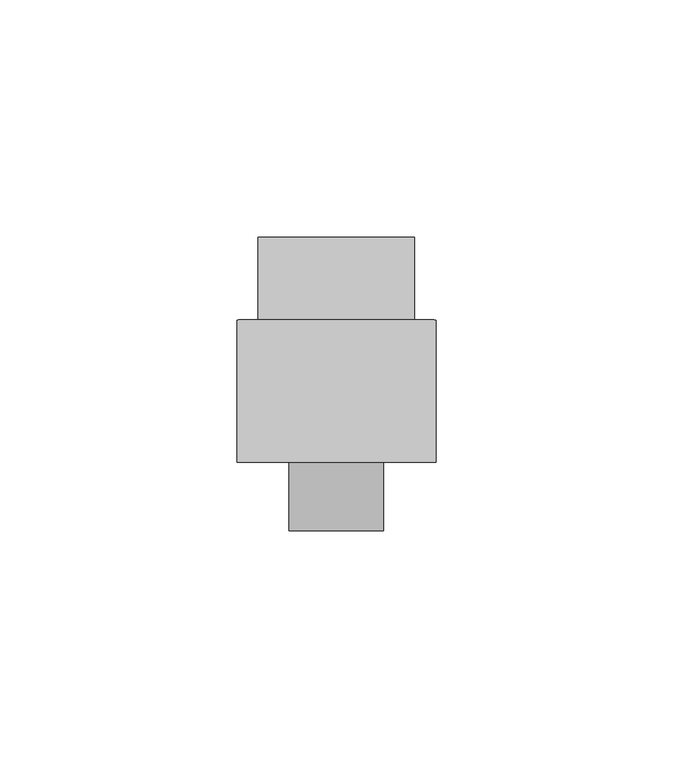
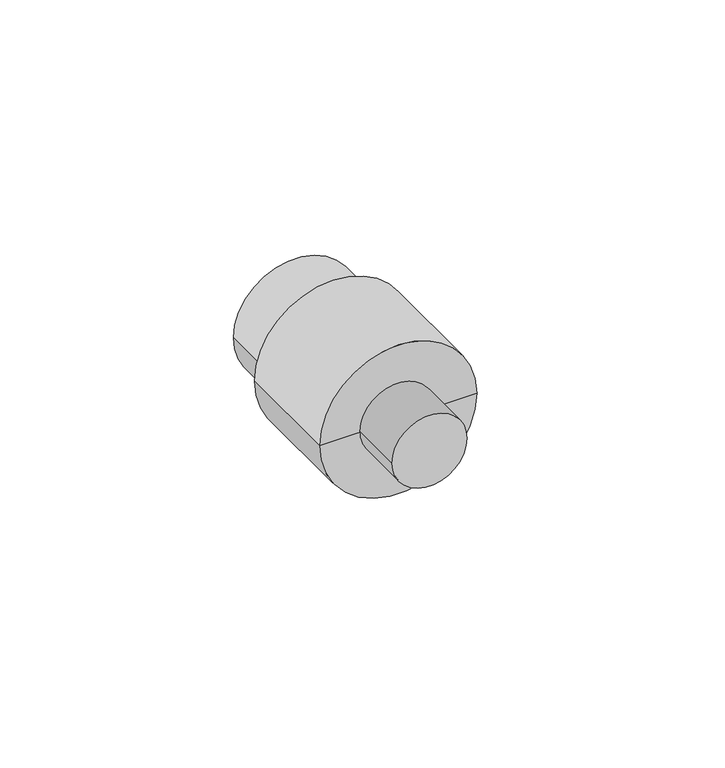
"""IFC4 building model written with IfcOpenShell, lengths in millimetres: pipe fitting geometry, NIRON RED termofusion roscado enlace rosca macho : Estándar."""

from ifc_helpers import new_model, si_unit, point, frame, origin, origin_2d, place, context, project, spatial, circle_curve, trimmed, segment, composite_curve, outline, extrude, source, transform, mapped, element, save
from ifc_brep_helpers import plane_surface, cylinder_surface, advanced_brep


def pipe_fitting_f9833150(model_context):
    return source(origin(), model_context, "Body", "SolidModel", [
        extrude(outline(composite_curve([segment(trimmed(circle_curve(origin_2d(), 10.0), [point((0.0, -10.0))], [point((0.0, 10.0))], False, "CARTESIAN"), True, "CONTINUOUS"), segment(trimmed(circle_curve(origin_2d(), 10.0), [point((0.0, 10.0))], [point((0.0, -10.0))], False, "CARTESIAN"), True, "CONTINUOUS")], self_intersect=False)), frame((0.0, -5.0, 0.0), z_axis=(0.0, 1.0, 0.0), x_axis=(0.0, 0.0, 1.0)), (0.0, 0.0, 1.0), 30.0),
        advanced_brep(
        [(16.5, 57.0, 0.0), (-16.5, 57.0, 0.0), (0.0, 57.0, 0.0), (21.0, 9.5, 0.0), (-21.0, 9.5, 0.0), (-21.0, 39.5, 0.0), (21.0, 39.5, 0.0), (0.0, 9.5, 0.0), (16.5, 39.5, 0.0), (-16.5, 39.5, 0.0)],
        [
            (0, 1, circle_curve(frame((0.0, 57.0, 0.0), z_axis=(0.0, 1.0, 0.0), x_axis=(-1.0, 0.0, 0.0)), 16.5)),
            (1, 2),
            (2, 0),
            (1, 0, circle_curve(frame((0.0, 57.0, 0.0), z_axis=(0.0, 1.0, 0.0), x_axis=(-1.0, 0.0, 0.0)), 16.5)),
            (3, 4, circle_curve(frame((0.0, 9.5, 0.0), z_axis=(0.0, 1.0, 0.0), x_axis=(-1.0, 0.0, 0.0)), 21.0)),
            (4, 5),
            (5, 6, circle_curve(frame((0.0, 39.5, 0.0), z_axis=(0.0, -1.0, 0.0), x_axis=(-1.0, 0.0, 0.0)), 21.0)),
            (6, 3),
            (4, 3, circle_curve(frame((0.0, 9.5, 0.0), z_axis=(0.0, 1.0, 0.0), x_axis=(-1.0, 0.0, 0.0)), 21.0)),
            (6, 5, circle_curve(frame((0.0, 39.5, 0.0), z_axis=(0.0, -1.0, 0.0), x_axis=(-1.0, 0.0, 0.0)), 21.0)),
            (7, 4),
            (3, 7),
            (8, 9, circle_curve(frame((0.0, 39.5, 0.0), z_axis=(0.0, 1.0, 0.0), x_axis=(-1.0, 0.0, 0.0)), 16.5)),
            (9, 1),
            (0, 8),
            (9, 8, circle_curve(frame((0.0, 39.5, 0.0), z_axis=(0.0, 1.0, 0.0), x_axis=(-1.0, 0.0, 0.0)), 16.5)),
            (5, 9),
            (8, 6),
        ],
        [
            plane_surface(frame((0.0, 57.0, 0.0), z_axis=(0.0, 1.0, 0.0), x_axis=(-1.0, 0.0, 0.0))),
            cylinder_surface(frame((0.0, 67.0, 0.0), z_axis=(0.0, -1.0, 0.0), x_axis=(-1.0, 0.0, 0.0)), 21.0),
            plane_surface(frame((0.0, 9.5, 0.0), z_axis=(0.0, -1.0, 0.0), x_axis=(-1.0, 0.0, 0.0))),
            cylinder_surface(frame((0.0, 67.0, 0.0), z_axis=(0.0, -1.0, 0.0), x_axis=(-1.0, 0.0, 0.0)), 16.5),
            plane_surface(frame((0.0, 39.5, 0.0), z_axis=(0.0, 1.0, 0.0), x_axis=(-1.0, 0.0, 0.0))),
        ],
        [
            (0, [[1, 2, 3]]),
            (0, [[4, -3, -2]]),
            (1, [[5, 6, 7, 8]]),
            (1, [[9, -8, 10, -6]]),
            (2, [[11, -5, 12]]),
            (2, [[-12, -9, -11]]),
            (3, [[13, 14, -1, 15]]),
            (3, [[16, -15, -4, -14]]),
            (4, [[-7, 17, -13, 18]]),
            (4, [[-10, -18, -16, -17]]),
        ],
    ),
    ])


if __name__ == "__main__":
    model = new_model("IFC4")
    model_context = context("Model", 3, world=origin())
    ifc_project = project(units=[si_unit("LENGTHUNIT", "METRE", prefix="MILLI")], contexts=[model_context])
    site = spatial("IfcSite", under=ifc_project)
    building = spatial("IfcBuilding", under=site)
    placement = place(None, origin())
    pipe_fitting_shape = pipe_fitting_f9833150(model_context)
    element("IfcPipeFitting", 1, ObjectType="NIRON RED termofusion roscado enlace rosca macho : Estándar", at=placement, inside=building, context=model_context, shape_type="MappedRepresentation", body=[
        mapped(pipe_fitting_shape, transform((0.0, 0.0, 0.0), x_axis=(1.0, 0.0, 0.0), y_axis=(0.0, 1.0, 0.0), z_axis=(0.0, 0.0, 1.0))),
    ])
    save(model, "model.ifc")
